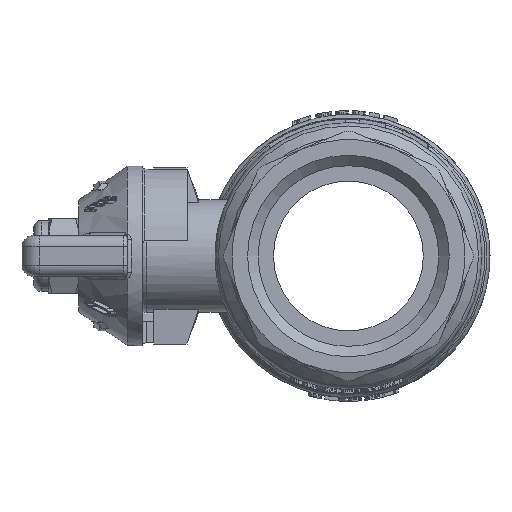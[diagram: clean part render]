
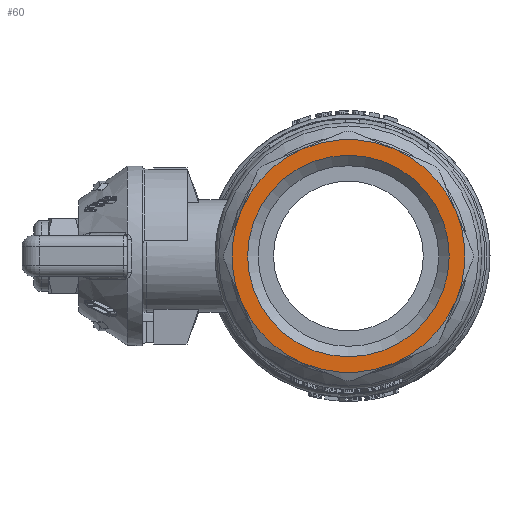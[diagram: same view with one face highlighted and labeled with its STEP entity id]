
A CAD part, left-side view. The second image highlights one B-rep face of the part: STEP entity #60.
In plain terms, the highlighted planar face has unit normal (-1, 0, 0).
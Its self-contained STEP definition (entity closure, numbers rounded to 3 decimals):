
#60=ADVANCED_FACE('',(#1864,#1866),#1868,.T.);
#1864=FACE_BOUND('',#1865,.T.);
#1865=EDGE_LOOP('',(#15091,#15092,#15093,#15094,#15095,#15096,#15097,#15098));
#1866=FACE_BOUND('',#1867,.T.);
#1867=EDGE_LOOP('',(#15099));
#1868=PLANE('',#1869);
#1869=AXIS2_PLACEMENT_3D('',#1870,#1871,#1872);
#1870=CARTESIAN_POINT('',(-28.9,0.,0.));
#1871=DIRECTION('',(-1.,0.,0.));
#1872=DIRECTION('',(0.,0.,1.));
#15091=ORIENTED_EDGE('',*,*,#25263,.T.);
#15092=ORIENTED_EDGE('',*,*,#25264,.T.);
#15093=ORIENTED_EDGE('',*,*,#25265,.T.);
#15094=ORIENTED_EDGE('',*,*,#25266,.T.);
#15095=ORIENTED_EDGE('',*,*,#25267,.T.);
#15096=ORIENTED_EDGE('',*,*,#25268,.T.);
#15097=ORIENTED_EDGE('',*,*,#25269,.T.);
#15098=ORIENTED_EDGE('',*,*,#25270,.T.);
#15099=ORIENTED_EDGE('',*,*,#25261,.T.);
#25261=EDGE_CURVE('',#30194,#30194,#30195,.F.);
#25263=EDGE_CURVE('',#30198,#30199,#30200,.F.);
#25264=EDGE_CURVE('',#30199,#30201,#30202,.F.);
#25265=EDGE_CURVE('',#30201,#30203,#30204,.F.);
#25266=EDGE_CURVE('',#30203,#30205,#30206,.F.);
#25267=EDGE_CURVE('',#30205,#30207,#30208,.F.);
#25268=EDGE_CURVE('',#30207,#30209,#30210,.F.);
#25269=EDGE_CURVE('',#30209,#30211,#30212,.F.);
#25270=EDGE_CURVE('',#30211,#30198,#30213,.F.);
#30194=VERTEX_POINT('',#38407);
#30195=CIRCLE('',#38408,13.459);
#30198=VERTEX_POINT('',#38417);
#30199=VERTEX_POINT('',#38418);
#30200=CIRCLE('',#38419,15.55);
#30201=VERTEX_POINT('',#38423);
#30202=CIRCLE('',#38424,15.55);
#30203=VERTEX_POINT('',#38428);
#30204=CIRCLE('',#38429,15.55);
#30205=VERTEX_POINT('',#38433);
#30206=CIRCLE('',#38434,15.55);
#30207=VERTEX_POINT('',#38438);
#30208=CIRCLE('',#38439,15.55);
#30209=VERTEX_POINT('',#38443);
#30210=CIRCLE('',#38444,15.55);
#30211=VERTEX_POINT('',#38448);
#30212=CIRCLE('',#38449,15.55);
#30213=CIRCLE('',#38453,15.55);
#38407=CARTESIAN_POINT('',(-28.9,0.,13.459));
#38408=AXIS2_PLACEMENT_3D('',#38409,#38410,#38411);
#38409=CARTESIAN_POINT('',(-28.9,0.,0.));
#38410=DIRECTION('',(-1.,0.,0.));
#38411=DIRECTION('',(0.,0.,1.));
#38417=CARTESIAN_POINT('',(-28.9,-5.951,14.366));
#38418=CARTESIAN_POINT('',(-28.9,5.951,14.366));
#38419=AXIS2_PLACEMENT_3D('',#38420,#38421,#38422);
#38420=CARTESIAN_POINT('',(-28.9,0.,0.));
#38421=DIRECTION('',(1.,0.,0.));
#38422=DIRECTION('',(0.,0.383,0.924));
#38423=CARTESIAN_POINT('',(-28.9,14.366,5.951));
#38424=AXIS2_PLACEMENT_3D('',#38425,#38426,#38427);
#38425=CARTESIAN_POINT('',(-28.9,0.,0.));
#38426=DIRECTION('',(1.,0.,0.));
#38427=DIRECTION('',(0.,0.924,0.383));
#38428=CARTESIAN_POINT('',(-28.9,14.366,-5.951));
#38429=AXIS2_PLACEMENT_3D('',#38430,#38431,#38432);
#38430=CARTESIAN_POINT('',(-28.9,0.,0.));
#38431=DIRECTION('',(1.,0.,0.));
#38432=DIRECTION('',(0.,0.924,-0.383));
#38433=CARTESIAN_POINT('',(-28.9,5.951,-14.366));
#38434=AXIS2_PLACEMENT_3D('',#38435,#38436,#38437);
#38435=CARTESIAN_POINT('',(-28.9,0.,0.));
#38436=DIRECTION('',(1.,0.,0.));
#38437=DIRECTION('',(0.,0.383,-0.924));
#38438=CARTESIAN_POINT('',(-28.9,-5.951,-14.366));
#38439=AXIS2_PLACEMENT_3D('',#38440,#38441,#38442);
#38440=CARTESIAN_POINT('',(-28.9,0.,0.));
#38441=DIRECTION('',(1.,0.,0.));
#38442=DIRECTION('',(0.,-0.383,-0.924));
#38443=CARTESIAN_POINT('',(-28.9,-14.366,-5.951));
#38444=AXIS2_PLACEMENT_3D('',#38445,#38446,#38447);
#38445=CARTESIAN_POINT('',(-28.9,0.,0.));
#38446=DIRECTION('',(1.,0.,0.));
#38447=DIRECTION('',(0.,-0.924,-0.383));
#38448=CARTESIAN_POINT('',(-28.9,-14.366,5.951));
#38449=AXIS2_PLACEMENT_3D('',#38450,#38451,#38452);
#38450=CARTESIAN_POINT('',(-28.9,0.,0.));
#38451=DIRECTION('',(1.,0.,0.));
#38452=DIRECTION('',(0.,-0.924,0.383));
#38453=AXIS2_PLACEMENT_3D('',#38454,#38455,#38456);
#38454=CARTESIAN_POINT('',(-28.9,0.,0.));
#38455=DIRECTION('',(1.,0.,0.));
#38456=DIRECTION('',(0.,-0.383,0.924));
